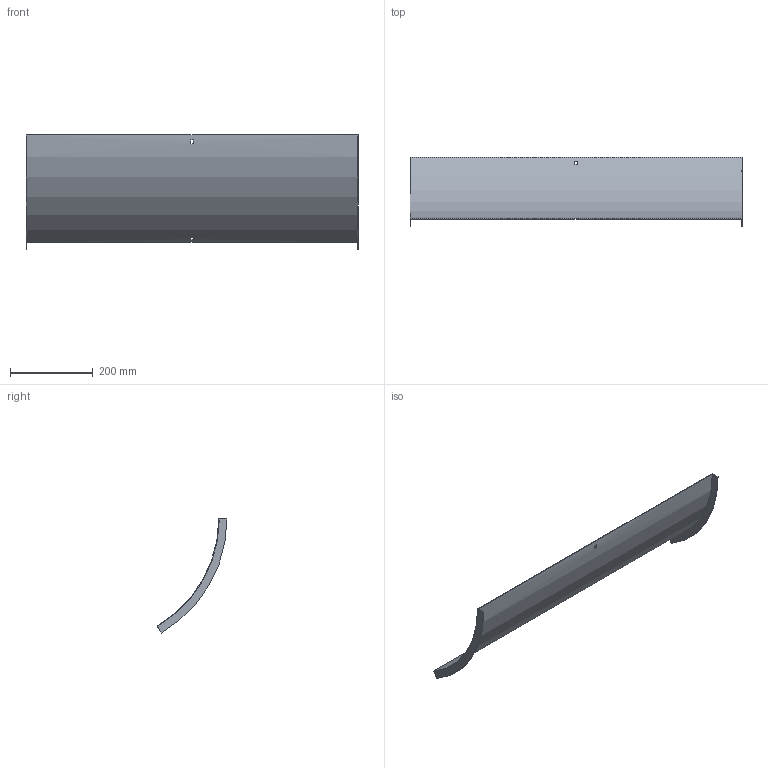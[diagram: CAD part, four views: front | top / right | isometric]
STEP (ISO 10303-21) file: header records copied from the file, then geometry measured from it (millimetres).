
FILE_DESCRIPTION (( 'STEP AP214' ), '1' );
FILE_NAME ('B2X40N3R800X.step', '2025-03-20T09:44:52', ( '' ), ( '' ), 'SwSTEP 2.0', 'SolidWorks 2023', '' );
FILE_SCHEMA (( 'AUTOMOTIVE_DESIGN' ));
Length unit declared in the file: millimetre
Products named in the file (1): B2X40N3R800X
Bounding box: 803 x 169.25 x 275.83 mm (x, y, z)
Volume: 395256.5 mm3; surface area: 530620 mm2
Topology: 1 solids, 1 shells, 18 faces, 48 edges, 32 vertices
Faces by surface type: plane 14, cylinder 4
Entity records: 599 total; most frequent: DIRECTION 102, CARTESIAN_POINT 99, ORIENTED_EDGE 96, EDGE_CURVE 48, AXIS2_PLACEMENT_3D 35, LINE 32, VERTEX_POINT 32, VECTOR 32
